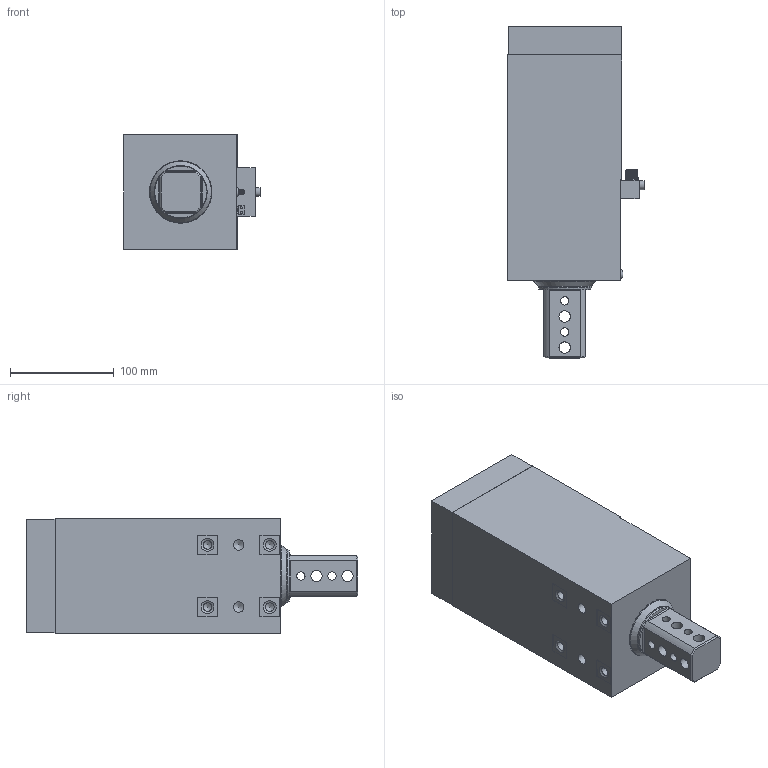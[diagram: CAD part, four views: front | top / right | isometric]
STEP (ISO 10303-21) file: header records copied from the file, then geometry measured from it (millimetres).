
FILE_DESCRIPTION(/* description */ (''),/* implementation_level */ '2;1');
FILE_NAME(/* name */ 'M:\cad\PRODUCT\LSA\LSA - 105\STEP\LSA-105\25mm Stroke\LSA-105 25mm Stroke - Retract.stp',/* time_stamp */ '2018-04-20T09:00:21-04:00',/* author */ ('Tyler'),/* organization */ (''),/* preprocessor_version */ 'ST-DEVELOPER v17',/* originating_system */ 'Autodesk Inventor 2018',/* authorisation */ '');
FILE_SCHEMA (('AUTOMOTIVE_DESIGN { 1 0 10303 214 3 1 1 }'));
Length unit declared in the file: inch
Products named in the file (1): LSA-105 - 25_50 Stroke - Stripped for STEP_Retract
Bounding box: 131.81 x 320 x 110.01 mm (x, y, z)
Volume: 2356311.9 mm3; surface area: 258377.1 mm2
Topology: 1 solids, 1 shells, 486 faces, 1385 edges, 930 vertices
Faces by surface type: cylinder 214, plane 189, cone 75, torus 5, bspline 2, sphere 1
Full cylindrical faces by diameter (mm): 1 x8, 1.397 x1, 2 x2, 3.175 x2, 3.264 x6, 3.961 x29, 4.14 x5, 4.928 x4, 5 x27, 5.3 x4, 6.35 x1, 6.502 x4, 8.019 x8, 8.3 x1, 8.382 x4, 8.5 x1, 9.169 x1, 9.525 x1, 10.02 x2, 10.49 x4, 10.5 x1, 10.998 x8, 12 x1, 13.894 x1, 14.287 x1, 14.808 x1, 15.083 x1, 17.983 x1, 18.11 x1, 22.174 x2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
Entity records: 22637 total; most frequent: CARTESIAN_POINT 9206, ORIENTED_EDGE 2732, DIRECTION 2703, EDGE_CURVE 1366, AXIS2_PLACEMENT_3D 1042, VERTEX_POINT 930, LINE 619, VECTOR 619
